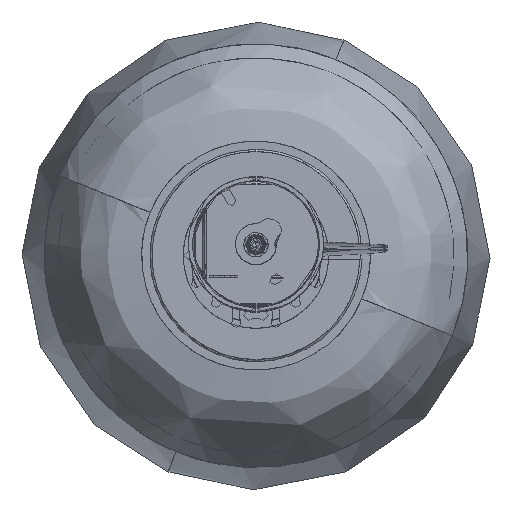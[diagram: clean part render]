
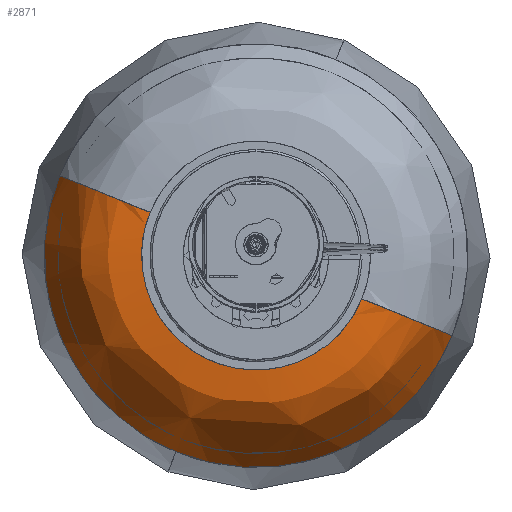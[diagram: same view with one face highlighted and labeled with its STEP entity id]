
A CAD part, top view. The second image highlights one B-rep face of the part: STEP entity #2871.
In plain terms, the highlighted free-form (B-spline) face has degree [2, 3] with [3, 4] control points.
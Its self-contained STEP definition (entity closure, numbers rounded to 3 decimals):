
#2871=ADVANCED_FACE('',(#3665),#22260,.T.);
#3665=FACE_OUTER_BOUND('',#4459,.T.);
#4459=EDGE_LOOP('',(#5415,#5416,#5417,#5418,#5419));
#5415=ORIENTED_EDGE('',*,*,#9635,.T.);
#5416=ORIENTED_EDGE('',*,*,#9636,.T.);
#5417=ORIENTED_EDGE('',*,*,#9639,.T.);
#5418=ORIENTED_EDGE('',*,*,#9637,.T.);
#5419=ORIENTED_EDGE('',*,*,#9638,.T.);
#9635=EDGE_CURVE('',#18075,#18076,#16103,.T.);
#9636=EDGE_CURVE('',#18076,#18079,#13841,.T.);
#9637=EDGE_CURVE('',#18077,#18078,#16104,.T.);
#9638=EDGE_CURVE('',#18078,#18075,#13842,.T.);
#9639=EDGE_CURVE('',#18079,#18077,#13843,.T.);
#13841=(
BOUNDED_CURVE()
B_SPLINE_CURVE(2,(#24904,#24905,#24906),.UNSPECIFIED.,.F.,.F.)
B_SPLINE_CURVE_WITH_KNOTS((3,3),(0.,0.5),.UNSPECIFIED.)
CURVE()
GEOMETRIC_REPRESENTATION_ITEM()
RATIONAL_B_SPLINE_CURVE((1.,0.707,1.))
REPRESENTATION_ITEM('')
);
#13842=(
BOUNDED_CURVE()
B_SPLINE_CURVE(2,(#24910,#24911,#24912,#24913,#24914),.UNSPECIFIED.,.F.,
 .F.)
B_SPLINE_CURVE_WITH_KNOTS((3,2,3),(-1.,-0.5,0.),.UNSPECIFIED.)
CURVE()
GEOMETRIC_REPRESENTATION_ITEM()
RATIONAL_B_SPLINE_CURVE((1.,0.707,1.,0.707,1.))
REPRESENTATION_ITEM('')
);
#13843=(
BOUNDED_CURVE()
B_SPLINE_CURVE(2,(#24915,#24916,#24917),.UNSPECIFIED.,.F.,.F.)
B_SPLINE_CURVE_WITH_KNOTS((3,3),(0.5,1.),.UNSPECIFIED.)
CURVE()
GEOMETRIC_REPRESENTATION_ITEM()
RATIONAL_B_SPLINE_CURVE((1.,0.707,1.))
REPRESENTATION_ITEM('')
);
#16103=B_SPLINE_CURVE_WITH_KNOTS('',2,(#24901,#24902,#24903),
 .UNSPECIFIED.,.F.,.F.,(3,3),(0.,1.),.UNSPECIFIED.);
#16104=B_SPLINE_CURVE_WITH_KNOTS('',2,(#24907,#24908,#24909),
 .UNSPECIFIED.,.F.,.F.,(3,3),(-1.,0.),.UNSPECIFIED.);
#18075=VERTEX_POINT('',#24896);
#18076=VERTEX_POINT('',#24897);
#18077=VERTEX_POINT('',#24898);
#18078=VERTEX_POINT('',#24899);
#18079=VERTEX_POINT('',#24900);
#22260=(
BOUNDED_SURFACE()
B_SPLINE_SURFACE(2,3,((#24884,#24885,#24886,#24887),(#24888,#24889,#24890,
#24891),(#24892,#24893,#24894,#24895)),.UNSPECIFIED.,.F.,.F.,.F.)
B_SPLINE_SURFACE_WITH_KNOTS((3,3),(4,4),(0.,1.),(0.,1.),.UNSPECIFIED.)
GEOMETRIC_REPRESENTATION_ITEM()
RATIONAL_B_SPLINE_SURFACE(((1.,0.333,0.333,1.),
(1.,0.333,0.333,1.),(1.,0.333,0.333,
1.)))
REPRESENTATION_ITEM('')
SURFACE()
);
#24884=CARTESIAN_POINT('',(-55.,115.,0.));
#24885=CARTESIAN_POINT('',(-55.,115.,110.));
#24886=CARTESIAN_POINT('',(55.,115.,110.));
#24887=CARTESIAN_POINT('',(55.,115.,0.));
#24888=CARTESIAN_POINT('',(-90.,115.,0.));
#24889=CARTESIAN_POINT('',(-90.,115.,180.));
#24890=CARTESIAN_POINT('',(90.,115.,180.));
#24891=CARTESIAN_POINT('',(90.,115.,0.));
#24892=CARTESIAN_POINT('',(-101.836,74.5,0.));
#24893=CARTESIAN_POINT('',(-101.836,74.5,203.673));
#24894=CARTESIAN_POINT('',(101.836,74.5,203.673));
#24895=CARTESIAN_POINT('',(101.836,74.5,0.));
#24896=CARTESIAN_POINT('',(-55.,115.,0.));
#24897=CARTESIAN_POINT('',(-101.836,74.5,0.));
#24898=CARTESIAN_POINT('',(101.836,74.5,0.));
#24899=CARTESIAN_POINT('',(55.,115.,0.));
#24900=CARTESIAN_POINT('',(0.,74.5,101.836));
#24901=CARTESIAN_POINT('',(-55.,115.,0.));
#24902=CARTESIAN_POINT('',(-90.,115.,0.));
#24903=CARTESIAN_POINT('',(-101.836,74.5,0.));
#24904=CARTESIAN_POINT('',(-101.836,74.5,0.));
#24905=CARTESIAN_POINT('',(-101.836,74.5,101.836));
#24906=CARTESIAN_POINT('',(0.,74.5,101.836));
#24907=CARTESIAN_POINT('',(101.836,74.5,0.));
#24908=CARTESIAN_POINT('',(90.,115.,0.));
#24909=CARTESIAN_POINT('',(55.,115.,0.));
#24910=CARTESIAN_POINT('',(55.,115.,0.));
#24911=CARTESIAN_POINT('',(55.,115.,55.));
#24912=CARTESIAN_POINT('',(0.,115.,55.));
#24913=CARTESIAN_POINT('',(-55.,115.,55.));
#24914=CARTESIAN_POINT('',(-55.,115.,0.));
#24915=CARTESIAN_POINT('',(0.,74.5,101.836));
#24916=CARTESIAN_POINT('',(101.836,74.5,101.836));
#24917=CARTESIAN_POINT('',(101.836,74.5,0.));
